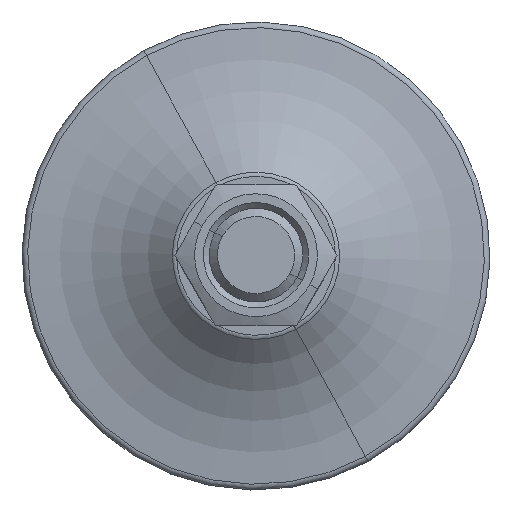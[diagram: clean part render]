
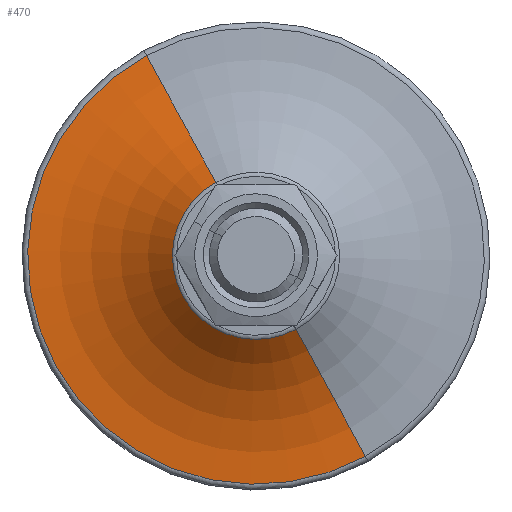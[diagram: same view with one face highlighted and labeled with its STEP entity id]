
A CAD part, top view. The second image highlights one B-rep face of the part: STEP entity #470.
In plain terms, the highlighted toroidal (fillet/blend) face has major radius 40 mm and minor radius 36.227 mm.
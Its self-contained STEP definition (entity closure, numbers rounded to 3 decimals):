
#61=CARTESIAN_POINT('Vertex',(18.71,-34.249,-10.987)) ;
#77=CARTESIAN_POINT('Vertex',(-18.71,34.249,-10.987)) ;
#102=CARTESIAN_POINT('Axis2P3D Location',(0.,0.,-10.987)) ;
#428=CARTESIAN_POINT('Axis2P3D Location',(0.,0.,25.227)) ;
#437=CARTESIAN_POINT('Vertex',(6.851,-12.541,-0.295)) ;
#439=CARTESIAN_POINT('Vertex',(-6.851,12.541,-0.295)) ;
#442=CARTESIAN_POINT('Axis2P3D Location',(19.177,-35.103,25.227)) ;
#447=CARTESIAN_POINT('Axis2P3D Location',(-19.177,35.103,25.227)) ;
#459=CARTESIAN_POINT('Axis2P3D Location',(0.,0.,-0.295)) ;
#103=DIRECTION('Axis2P3D Direction',(0.,-0.,1.)) ;
#429=DIRECTION('Axis2P3D Direction',(0.,0.,1.)) ;
#430=DIRECTION('Axis2P3D XDirection',(-0.479,0.878,0.)) ;
#443=DIRECTION('Axis2P3D Direction',(-0.878,-0.479,0.)) ;
#448=DIRECTION('Axis2P3D Direction',(0.878,0.479,-0.)) ;
#460=DIRECTION('Axis2P3D Direction',(0.,0.,1.)) ;
#104=AXIS2_PLACEMENT_3D('Circle Axis2P3D',#102,#103,$) ;
#431=AXIS2_PLACEMENT_3D('Torus Axis2P3D',#428,#429,#430) ;
#444=AXIS2_PLACEMENT_3D('Circle Axis2P3D',#442,#443,$) ;
#449=AXIS2_PLACEMENT_3D('Circle Axis2P3D',#447,#448,$) ;
#461=AXIS2_PLACEMENT_3D('Circle Axis2P3D',#459,#460,$) ;
#465=ORIENTED_EDGE('',*,*,#463,.F.) ;
#466=ORIENTED_EDGE('',*,*,#451,.F.) ;
#467=ORIENTED_EDGE('',*,*,#106,.T.) ;
#468=ORIENTED_EDGE('',*,*,#446,.T.) ;
#470=ADVANCED_FACE('PartBody',(#469),#432,.F.) ;
#105=CIRCLE('generated circle',#104,39.027) ;
#445=CIRCLE('generated circle',#444,36.227) ;
#450=CIRCLE('generated circle',#449,36.227) ;
#462=CIRCLE('generated circle',#461,14.29) ;
#432=TOROIDAL_SURFACE('homeo Torus',#431,40.,36.227) ;
#106=EDGE_CURVE('',#78,#62,#105,.T.) ;
#446=EDGE_CURVE('',#62,#438,#445,.F.) ;
#451=EDGE_CURVE('',#78,#440,#450,.F.) ;
#463=EDGE_CURVE('',#440,#438,#462,.T.) ;
#464=EDGE_LOOP('',(#465,#466,#467,#468)) ;
#469=FACE_OUTER_BOUND('',#464,.T.) ;
#62=VERTEX_POINT('',#61) ;
#78=VERTEX_POINT('',#77) ;
#438=VERTEX_POINT('',#437) ;
#440=VERTEX_POINT('',#439) ;
